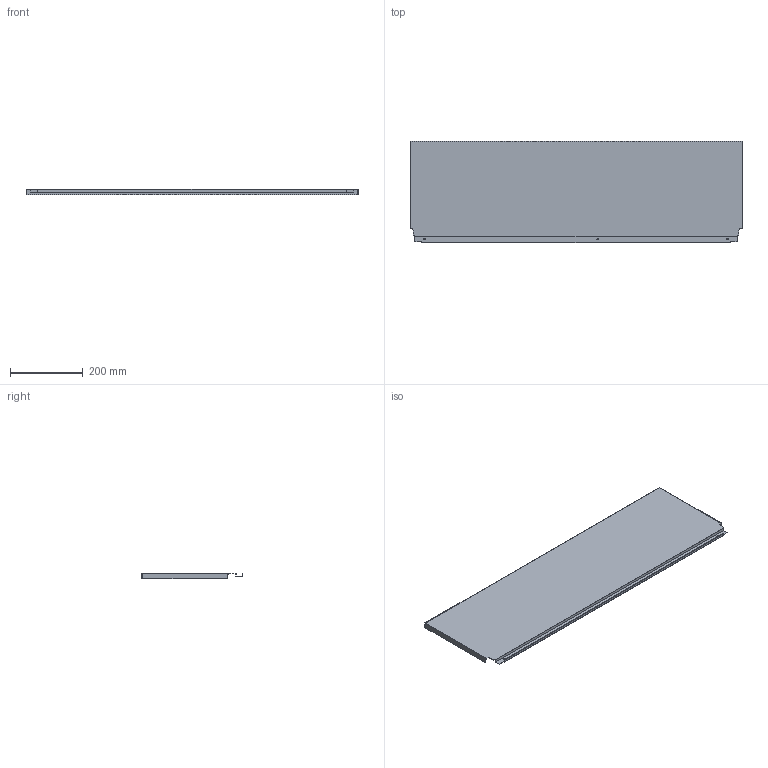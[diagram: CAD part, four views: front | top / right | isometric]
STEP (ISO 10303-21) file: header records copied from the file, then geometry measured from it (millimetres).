
FILE_DESCRIPTION (( 'STEP AP214' ), '1' );
FILE_NAME ('_DWD_XP Stahlrückwand_H278_KAB1000_S18.step', '2010-07-08T13:04:02', ( 'grass' ), ( '' ), 'SwSTEP 2.0', 'SolidWorks 2010', '' );
FILE_SCHEMA (( 'AUTOMOTIVE_DESIGN' ));
Length unit declared in the file: millimetre
Products named in the file (1): _DWD_XP Stahlrückwand_H278_KAB1000_S18
Bounding box: 913 x 278.57 x 16 mm (x, y, z)
Volume: 252885.7 mm3; surface area: 576890.1 mm2
Topology: 1 solids, 1 shells, 46 faces, 132 edges, 88 vertices
Faces by surface type: plane 40, cylinder 6
Entity records: 1534 total; most frequent: CARTESIAN_POINT 267, ORIENTED_EDGE 264, DIRECTION 238, EDGE_CURVE 132, VECTOR 120, LINE 120, VERTEX_POINT 88, AXIS2_PLACEMENT_3D 59
